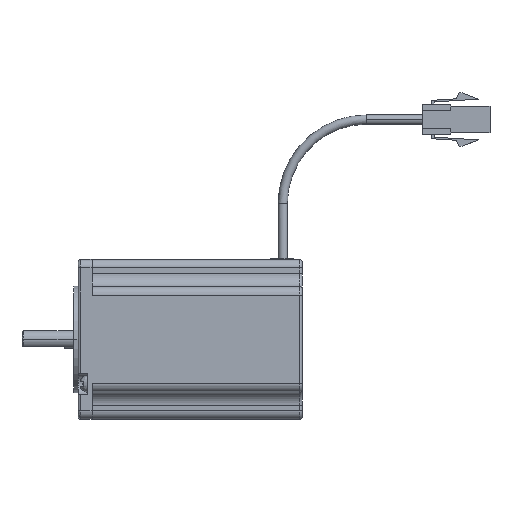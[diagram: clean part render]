
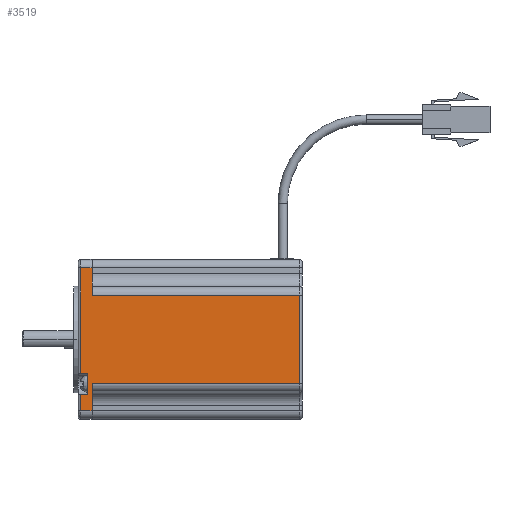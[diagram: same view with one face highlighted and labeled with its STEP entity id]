
A CAD part, top view. The second image highlights one B-rep face of the part: STEP entity #3519.
In plain terms, the highlighted planar face has unit normal (0, 0, 1) as drawn and (-1, 0, 0) by its records, which use the part's own axes.
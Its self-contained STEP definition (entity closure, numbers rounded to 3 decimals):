
#283 = DIRECTION ( 'NONE',  ( 0., 0., 1. ) ) ;
#473 = VECTOR ( 'NONE', #5481, 1000. ) ;
#553 = ORIENTED_EDGE ( 'NONE', *, *, #3039, .T. ) ;
#590 = LINE ( 'NONE', #1757, #4034 ) ;
#600 = VERTEX_POINT ( 'NONE', #2474 ) ;
#608 = LINE ( 'NONE', #2935, #5890 ) ;
#661 = VECTOR ( 'NONE', #283, 1000. ) ;
#938 = VECTOR ( 'NONE', #3966, 1000. ) ;
#1068 = LINE ( 'NONE', #9182, #4684 ) ;
#1071 = AXIS2_PLACEMENT_3D ( 'NONE', #4787, #4751, #4717 ) ;
#1106 = CARTESIAN_POINT ( 'NONE',  ( -36.289, -121.243, -98. ) ) ;
#1109 = EDGE_CURVE ( 'NONE', #7371, #1812, #1068, .T. ) ;
#1355 = DIRECTION ( 'NONE',  ( 0., -1., 0. ) ) ;
#1397 = VECTOR ( 'NONE', #6448, 1000. ) ;
#1479 = EDGE_CURVE ( 'NONE', #2054, #7371, #4347, .T. ) ;
#1540 = VERTEX_POINT ( 'NONE', #4941 ) ;
#1561 = DIRECTION ( 'NONE',  ( 0., 1., 0. ) ) ;
#1687 = ORIENTED_EDGE ( 'NONE', *, *, #5145, .T. ) ;
#1748 = VECTOR ( 'NONE', #3891, 1000. ) ;
#1757 = CARTESIAN_POINT ( 'NONE',  ( -36.289, -121.243, -20. ) ) ;
#1812 = VERTEX_POINT ( 'NONE', #1899 ) ;
#1831 = LINE ( 'NONE', #5179, #9116 ) ;
#1899 = CARTESIAN_POINT ( 'NONE',  ( -36.289, -133.973, -24. ) ) ;
#2054 = VERTEX_POINT ( 'NONE', #7401 ) ;
#2174 = ORIENTED_EDGE ( 'NONE', *, *, #4454, .T. ) ;
#2236 = EDGE_CURVE ( 'NONE', #2403, #3632, #4811, .T. ) ;
#2237 = CARTESIAN_POINT ( 'NONE',  ( -36.289, -137.543, -22.5 ) ) ;
#2252 = DIRECTION ( 'NONE',  ( 0., 0., -1. ) ) ;
#2403 = VERTEX_POINT ( 'NONE', #8300 ) ;
#2474 = CARTESIAN_POINT ( 'NONE',  ( -36.289, -165.513, -24. ) ) ;
#2531 = ORIENTED_EDGE ( 'NONE', *, *, #2236, .T. ) ;
#2596 = CARTESIAN_POINT ( 'NONE',  ( -36.289, -130.143, -20. ) ) ;
#2600 = CARTESIAN_POINT ( 'NONE',  ( -36.289, -137.543, -100. ) ) ;
#2699 = VECTOR ( 'NONE', #2252, 1000. ) ;
#2786 = EDGE_CURVE ( 'NONE', #600, #6037, #4570, .T. ) ;
#2865 = DIRECTION ( 'NONE',  ( 0., 0., 1. ) ) ;
#2935 = CARTESIAN_POINT ( 'NONE',  ( -36.289, -175.243, -100. ) ) ;
#3039 = EDGE_CURVE ( 'NONE', #6393, #2403, #590, .T. ) ;
#3180 = ORIENTED_EDGE ( 'NONE', *, *, #6384, .T. ) ;
#3354 = LINE ( 'NONE', #6333, #1397 ) ;
#3402 = ORIENTED_EDGE ( 'NONE', *, *, #4055, .T. ) ;
#3488 = LINE ( 'NONE', #1106, #7001 ) ;
#3519 = ADVANCED_FACE ( 'NONE', ( #4450 ), #4889, .T. ) ;
#3632 = VERTEX_POINT ( 'NONE', #2237 ) ;
#3891 = DIRECTION ( 'NONE',  ( 0., 0., 1. ) ) ;
#3966 = DIRECTION ( 'NONE',  ( 0., -1., 0. ) ) ;
#4034 = VECTOR ( 'NONE', #1561, 1000. ) ;
#4055 = EDGE_CURVE ( 'NONE', #6037, #6393, #608, .T. ) ;
#4151 = CARTESIAN_POINT ( 'NONE',  ( -36.289, -133.973, -98. ) ) ;
#4168 = CARTESIAN_POINT ( 'NONE',  ( -36.289, -133.973, -100. ) ) ;
#4177 = CARTESIAN_POINT ( 'NONE',  ( -36.289, -121.243, -24. ) ) ;
#4347 = LINE ( 'NONE', #5451, #473 ) ;
#4398 = EDGE_CURVE ( 'NONE', #5350, #7242, #3488, .T. ) ;
#4450 = FACE_OUTER_BOUND ( 'NONE', #9191, .T. ) ;
#4454 = EDGE_CURVE ( 'NONE', #3632, #1540, #4913, .T. ) ;
#4533 = LINE ( 'NONE', #5340, #661 ) ;
#4551 = ORIENTED_EDGE ( 'NONE', *, *, #1109, .T. ) ;
#4570 = LINE ( 'NONE', #4177, #938 ) ;
#4684 = VECTOR ( 'NONE', #9165, 1000. ) ;
#4717 = DIRECTION ( 'NONE',  ( 0., 0., 1. ) ) ;
#4751 = DIRECTION ( 'NONE',  ( -1., 0., 0. ) ) ;
#4787 = CARTESIAN_POINT ( 'NONE',  ( -36.289, -121.243, -100. ) ) ;
#4811 = LINE ( 'NONE', #2600, #2699 ) ;
#4827 = EDGE_CURVE ( 'NONE', #5350, #1812, #7432, .T. ) ;
#4889 = PLANE ( 'NONE',  #1071 ) ;
#4913 = LINE ( 'NONE', #7318, #8619 ) ;
#4941 = CARTESIAN_POINT ( 'NONE',  ( -36.289, -130.143, -22.5 ) ) ;
#5145 = EDGE_CURVE ( 'NONE', #7242, #600, #3354, .T. ) ;
#5179 = CARTESIAN_POINT ( 'NONE',  ( -36.289, -121.243, -20. ) ) ;
#5340 = CARTESIAN_POINT ( 'NONE',  ( -36.289, -130.143, -100. ) ) ;
#5350 = VERTEX_POINT ( 'NONE', #4151 ) ;
#5451 = CARTESIAN_POINT ( 'NONE',  ( -36.289, -124.243, -100. ) ) ;
#5478 = CARTESIAN_POINT ( 'NONE',  ( -36.289, -175.243, -24. ) ) ;
#5481 = DIRECTION ( 'NONE',  ( 0., 0., -1. ) ) ;
#5558 = ORIENTED_EDGE ( 'NONE', *, *, #6264, .T. ) ;
#5815 = ORIENTED_EDGE ( 'NONE', *, *, #1479, .T. ) ;
#5822 = ORIENTED_EDGE ( 'NONE', *, *, #2786, .T. ) ;
#5889 = DIRECTION ( 'NONE',  ( 0., 1., 0. ) ) ;
#5890 = VECTOR ( 'NONE', #2865, 1000. ) ;
#5907 = ORIENTED_EDGE ( 'NONE', *, *, #4827, .F. ) ;
#6037 = VERTEX_POINT ( 'NONE', #5478 ) ;
#6264 = EDGE_CURVE ( 'NONE', #8599, #2054, #1831, .T. ) ;
#6308 = CARTESIAN_POINT ( 'NONE',  ( -36.289, -165.513, -98. ) ) ;
#6333 = CARTESIAN_POINT ( 'NONE',  ( -36.289, -165.513, -100. ) ) ;
#6384 = EDGE_CURVE ( 'NONE', #1540, #8599, #4533, .T. ) ;
#6393 = VERTEX_POINT ( 'NONE', #7474 ) ;
#6448 = DIRECTION ( 'NONE',  ( 0., 0., 1. ) ) ;
#7001 = VECTOR ( 'NONE', #1355, 1000. ) ;
#7242 = VERTEX_POINT ( 'NONE', #6308 ) ;
#7318 = CARTESIAN_POINT ( 'NONE',  ( -36.289, -121.243, -22.5 ) ) ;
#7320 = CARTESIAN_POINT ( 'NONE',  ( -36.289, -124.243, -24. ) ) ;
#7371 = VERTEX_POINT ( 'NONE', #7320 ) ;
#7401 = CARTESIAN_POINT ( 'NONE',  ( -36.289, -124.243, -20. ) ) ;
#7432 = LINE ( 'NONE', #4168, #1748 ) ;
#7474 = CARTESIAN_POINT ( 'NONE',  ( -36.289, -175.243, -20. ) ) ;
#7724 = DIRECTION ( 'NONE',  ( 0., 1., 0. ) ) ;
#8300 = CARTESIAN_POINT ( 'NONE',  ( -36.289, -137.543, -20. ) ) ;
#8394 = ORIENTED_EDGE ( 'NONE', *, *, #4398, .T. ) ;
#8599 = VERTEX_POINT ( 'NONE', #2596 ) ;
#8619 = VECTOR ( 'NONE', #7724, 1000. ) ;
#9116 = VECTOR ( 'NONE', #5889, 1000. ) ;
#9165 = DIRECTION ( 'NONE',  ( 0., -1., 0. ) ) ;
#9182 = CARTESIAN_POINT ( 'NONE',  ( -36.289, -121.243, -24. ) ) ;
#9191 = EDGE_LOOP ( 'NONE', ( #5907, #8394, #1687, #5822, #3402, #553, #2531, #2174, #3180, #5558, #5815, #4551 ) ) ;
